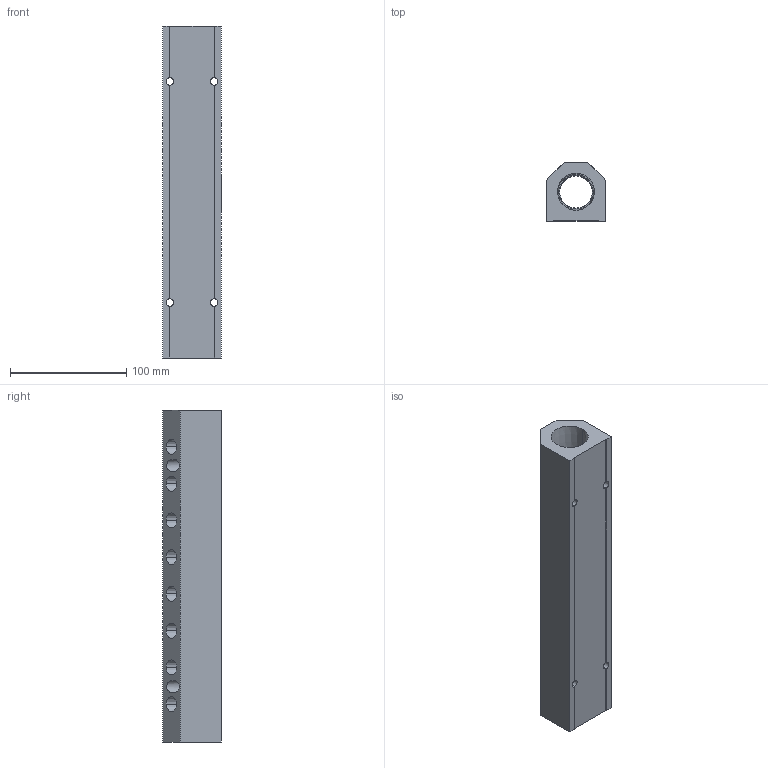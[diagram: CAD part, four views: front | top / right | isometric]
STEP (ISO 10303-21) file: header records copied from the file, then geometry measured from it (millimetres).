
FILE_DESCRIPTION (( 'STEP AP214' ), '1' );
FILE_NAME ('ALM8BD-N4N16-286R.STEP', '2023-11-02T06:53:03', ( '' ), ( '' ), 'SwSTEP 2.0', 'SolidWorks 2020', '' );
FILE_SCHEMA (( 'AUTOMOTIVE_DESIGN' ));
Length unit declared in the file: millimetre
Products named in the file (1): ALM8BD-N4N16-286R
Bounding box: 50.8 x 50.8 x 286 mm (x, y, z)
Volume: 451412.8 mm3; surface area: 88768.5 mm2
Topology: 1 solids, 1 shells, 341 faces, 890 edges, 588 vertices
Faces by surface type: plane 200, bspline 79, cone 40, cylinder 22
Entity records: 19496 total; most frequent: CARTESIAN_POINT 8491, ORIENTED_EDGE 1780, DIRECTION 1286, EDGE_CURVE 890, LINE 608, VECTOR 608, VERTEX_POINT 588, EDGE_LOOP 420
